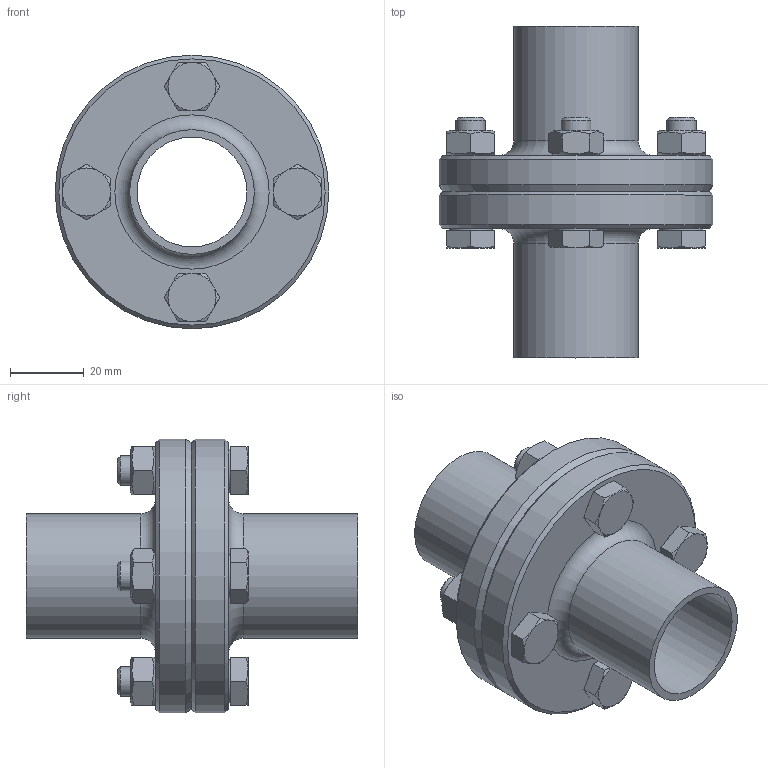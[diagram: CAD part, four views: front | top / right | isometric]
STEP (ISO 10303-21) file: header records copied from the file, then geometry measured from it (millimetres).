
FILE_DESCRIPTION(/* description */ ('DIN11864-2-A_33,7x2_L90_Fl74'),/* implementation_level */ '2;1');
FILE_NAME(/* name */ 'DIN11864-2-A_33,7x2_L90_Fl74.stp',/* time_stamp */ '2015-01-07T13:14:39+01:00',/* author */ ('DOCKWEILER AG'),/* organization */ ('DOCKWEILER AG'),/* preprocessor_version */ 'ST-DEVELOPER v15.6',/* originating_system */ 'Autodesk Inventor 2015',/* authorisation */ '');
FILE_SCHEMA (('CONFIG_CONTROL_DESIGN'));
Length unit declared in the file: millimetre
Products named in the file (6): N0003_007_003_17; N0003_007_004_17; N005_005_002_001_16; ISO 4032 - M8ISO; ISO 4017 - M8 x 30ISO; N0024_002_002
Assembly tree (11 placements, depth 2):
  N0024_002_002
    N0003_007_003_17
    N0003_007_004_17
    N005_005_002_001_16
    ISO 4032 - M8ISO  x4
    ISO 4017 - M8 x 30ISO  x4
Bounding box: 74 x 89.7 x 74 mm (x, y, z)
Volume: 92301.2 mm3; surface area: 45091.3 mm2
Topology: 11 solids, 11 shells, 174 faces, 362 edges, 222 vertices
Faces by surface type: plane 82, cone 52, cylinder 28, torus 12
Full cylindrical faces by diameter (mm): 6.647 x4, 8 x4, 9 x8, 11.63 x4, 29.7 x2, 33.7 x2, 45.3 x1, 45.4 x1, 74 x2
Entity records: 2080 total; most frequent: DIRECTION 352, CARTESIAN_POINT 352, ORIENTED_EDGE 228, AXIS2_PLACEMENT_3D 167, EDGE_LOOP 151, EDGE_CURVE 114, VERTEX_POINT 95, FACE_OUTER_BOUND 78
